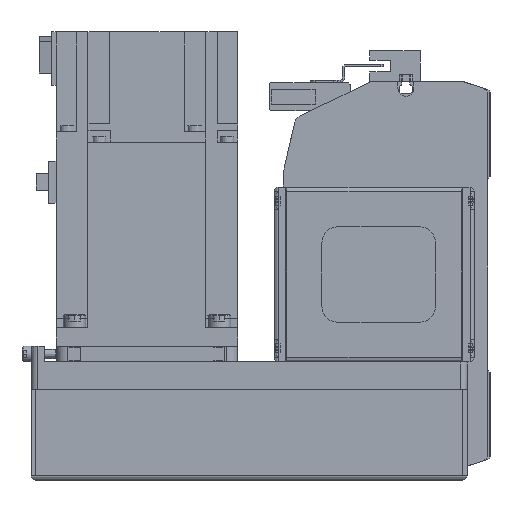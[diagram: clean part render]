
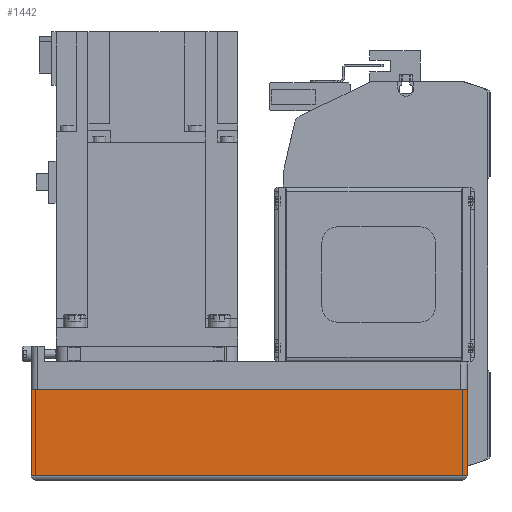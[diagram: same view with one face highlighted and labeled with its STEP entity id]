
A CAD part, left-side view. The second image highlights one B-rep face of the part: STEP entity #1442.
In plain terms, the highlighted planar face has unit normal (-1, 0, 0) as drawn and (0, -1, 0) by its records, which use the part's own axes.
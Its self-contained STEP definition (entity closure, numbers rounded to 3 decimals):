
#1442 = ADVANCED_FACE( '', ( #3838 ), #3839, .T. );
#3838 = FACE_OUTER_BOUND( '', #7580, .T. );
#3839 = PLANE( '', #7581 );
#7580 = EDGE_LOOP( '', ( #11799, #11800, #11801, #11802 ) );
#7581 = AXIS2_PLACEMENT_3D( '', #11803, #11804, #11805 );
#11799 = ORIENTED_EDGE( '', *, *, #21400, .F. );
#11800 = ORIENTED_EDGE( '', *, *, #21401, .F. );
#11801 = ORIENTED_EDGE( '', *, *, #21402, .T. );
#11802 = ORIENTED_EDGE( '', *, *, #21403, .T. );
#11803 = CARTESIAN_POINT( '', ( -192., -40., -12.1 ) );
#11804 = DIRECTION( '', ( 0., -1., 0. ) );
#11805 = DIRECTION( '', ( 0., 0., -1. ) );
#21400 = EDGE_CURVE( '', #25606, #25607, #25608, .T. );
#21401 = EDGE_CURVE( '', #25609, #25606, #25610, .T. );
#21402 = EDGE_CURVE( '', #25609, #24726, #25611, .T. );
#21403 = EDGE_CURVE( '', #24726, #25607, #25612, .T. );
#24726 = VERTEX_POINT( '', #30413 );
#25606 = VERTEX_POINT( '', #31736 );
#25607 = VERTEX_POINT( '', #31737 );
#25608 = LINE( '', #31738, #31739 );
#25609 = VERTEX_POINT( '', #31740 );
#25610 = LINE( '', #31741, #31742 );
#25611 = LINE( '', #31743, #31744 );
#25612 = LINE( '', #31745, #31746 );
#30413 = CARTESIAN_POINT( '', ( -192., -40., -50. ) );
#31736 = CARTESIAN_POINT( '', ( 0., -40., -12.1 ) );
#31737 = CARTESIAN_POINT( '', ( 0., -40., -50. ) );
#31738 = CARTESIAN_POINT( '', ( 0., -40., -12.1 ) );
#31739 = VECTOR( '', #39953, 1000. );
#31740 = CARTESIAN_POINT( '', ( -192., -40., -12.1 ) );
#31741 = CARTESIAN_POINT( '', ( -192., -40., -12.1 ) );
#31742 = VECTOR( '', #39954, 1000. );
#31743 = CARTESIAN_POINT( '', ( -192., -40., -12.1 ) );
#31744 = VECTOR( '', #39955, 1000. );
#31745 = CARTESIAN_POINT( '', ( -192., -40., -50. ) );
#31746 = VECTOR( '', #39956, 1000. );
#39953 = DIRECTION( '', ( 0., 0., -1. ) );
#39954 = DIRECTION( '', ( 1., 0., 0. ) );
#39955 = DIRECTION( '', ( 0., 0., -1. ) );
#39956 = DIRECTION( '', ( 1., 0., 0. ) );
